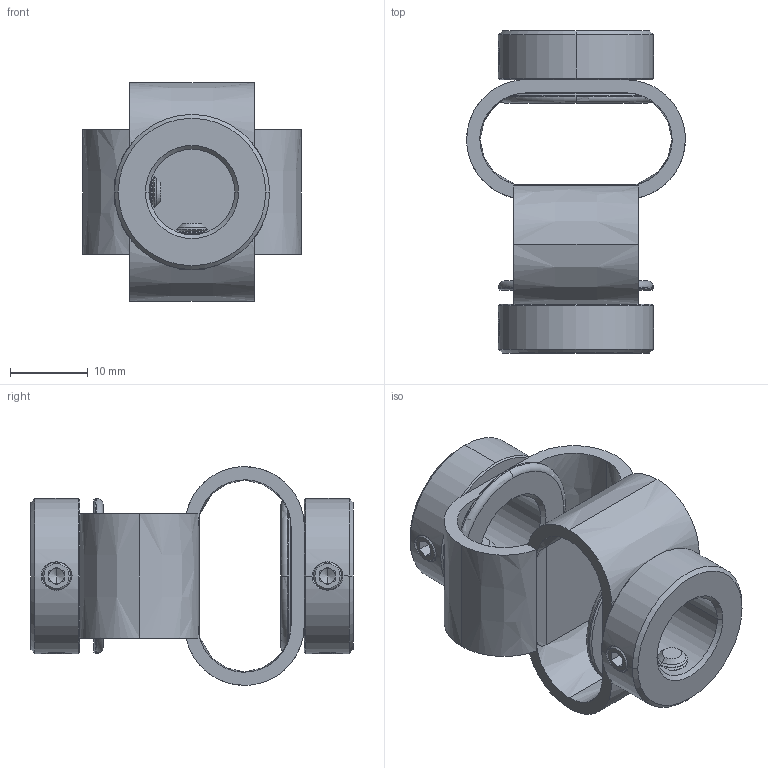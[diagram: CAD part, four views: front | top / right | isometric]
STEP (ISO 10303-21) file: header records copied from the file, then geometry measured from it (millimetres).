
FILE_DESCRIPTION (( 'STEP AP203' ), '1' );
FILE_NAME ('LS-D-D27L40-11-11.STEP', '2021-10-28T06:40:30', ( '' ), ( '' ), 'SwSTEP 2.0', 'SolidWorks 2018', '' );
FILE_SCHEMA (( 'CONFIG_CONTROL_DESIGN' ));
Length unit declared in the file: millimetre
Products named in the file (1): LS-D-D27L40-11-11
Bounding box: 28.2 x 41.54 x 28.2 mm (x, y, z)
Volume: 6153.9 mm3; surface area: 6701 mm2
Topology: 1 solids, 1 shells, 238 faces, 598 edges, 366 vertices
Faces by surface type: cone 94, plane 86, cylinder 38, bspline 16, torus 4
Entity records: 9003 total; most frequent: CARTESIAN_POINT 3433, ORIENTED_EDGE 1180, DIRECTION 1094, EDGE_CURVE 590, AXIS2_PLACEMENT_3D 433, VERTEX_POINT 366, EDGE_LOOP 266, FACE_OUTER_BOUND 238
